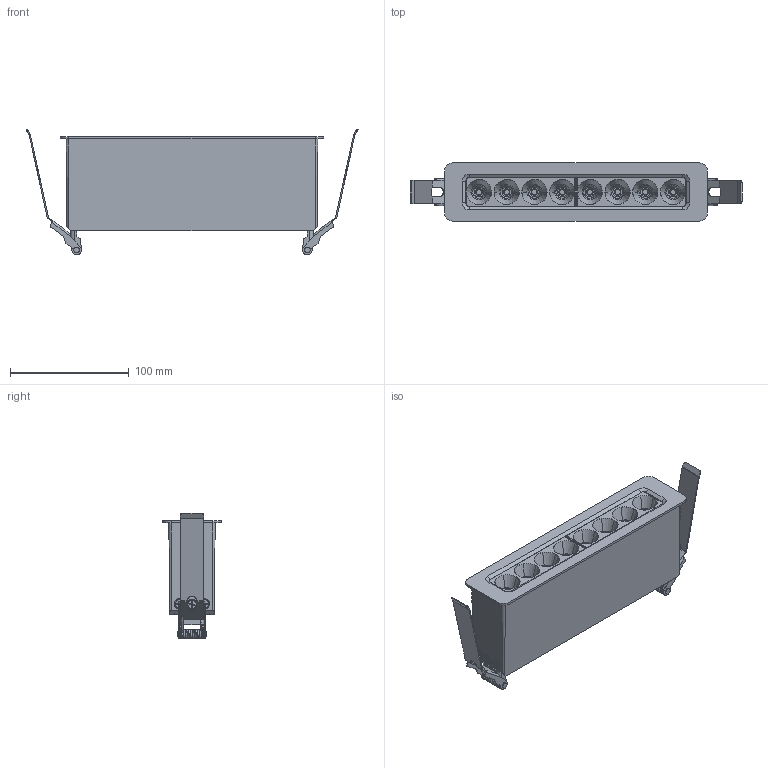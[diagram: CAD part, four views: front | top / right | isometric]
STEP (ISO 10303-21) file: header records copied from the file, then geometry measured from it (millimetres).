
FILE_DESCRIPTION(/* description */ (''),/* implementation_level */ '2;1');
FILE_NAME(/* name */ 'Darcy 8 Cells Assembly - Rec - IP20.stp',/* time_stamp */ '2026-02-19T10:52:27+11:00',/* author */ ('Mlight'),/* organization */ (''),/* preprocessor_version */ 'ST-DEVELOPER v20',/* originating_system */ 'Autodesk Inventor 2024',/* authorisation */ '');
FILE_SCHEMA (('AUTOMOTIVE_DESIGN { 1 0 10303 214 3 1 1 }'));
Products named in the file (18): Evelo X 12 Cell SM Darcy; Ledil Darcy PCB; DARCY-4x1; Copy (1) of C19683_DARCY-SHD_004_MechanicalModel_001; Copy (1) of Mechanical-LENS; Copy (2) of Mechanical-LENS; Copy (3) of Mechanical-LENS; Copy (4) of Mechanical-LENS; Evelo X Heat Sink Toshine Revision; AS 1427 - M4 x 10; Evelo Modular SM Outer Body; Custom Spring Assembly; Custom Spring Holder; Custom Spring Leg; Pin; Spring; Evelo X IP20 Bracket; Recessed Cover Plate
Assembly tree (25 placements, depth 3):
  Evelo X 12 Cell SM Darcy
    Ledil Darcy PCB
    DARCY-4x1  x2
      Copy (1) of C19683_DARCY-SHD_004_MechanicalModel_001
      Copy (1) of Mechanical-LENS
      Copy (2) of Mechanical-LENS
      Copy (3) of Mechanical-LENS
      Copy (4) of Mechanical-LENS
    Evelo X Heat Sink Toshine Revision
    AS 1427 - M4 x 10  x6
    Evelo Modular SM Outer Body
    Custom Spring Assembly  x2
      Custom Spring Holder
      Custom Spring Leg
      Pin
      Spring
    Evelo X IP20 Bracket  x2
    Recessed Cover Plate
Bounding box: 279.49 x 48.89 x 105.83 mm (x, y, z)
Volume: 199757.2 mm3; surface area: 187212.3 mm2
Topology: 30 solids, 30 shells, 5346 faces, 13609 edges, 8019 vertices
Faces by surface type: bspline 2380, plane 991, cylinder 689, cone 636, torus 532, sphere 118
Full cylindrical faces by diameter (mm): 0.75 x2, 1.5 x8, 2.1 x2, 2.8 x2, 3 x8, 3.2 x4, 3.242 x8, 3.571 x6, 4 x6, 4.5 x6, 4.8 x4, 5 x4, 7 x6, 8 x1
Entity records: 155703 total; most frequent: CARTESIAN_POINT 92750, ORIENTED_EDGE 14148, DIRECTION 11593, EDGE_CURVE 7074, AXIS2_PLACEMENT_3D 4884, VERTEX_POINT 4279, EDGE_LOOP 2909, FACE_OUTER_BOUND 2812
